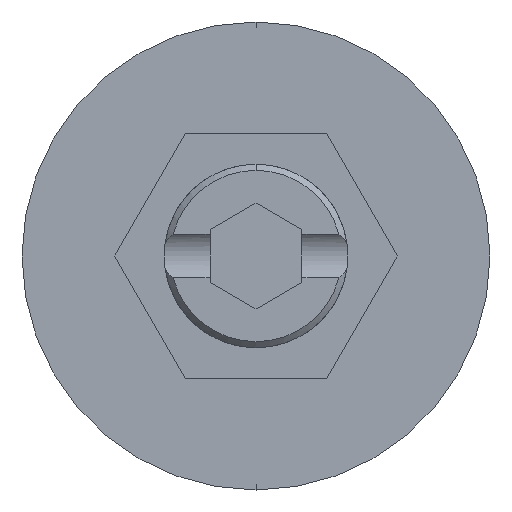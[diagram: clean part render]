
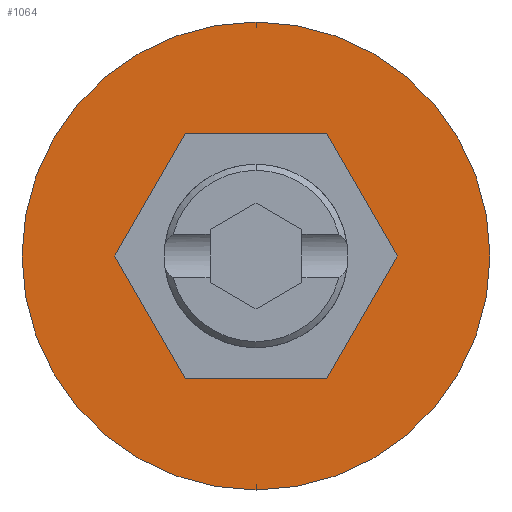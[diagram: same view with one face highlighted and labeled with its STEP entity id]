
A CAD part, front view. The second image highlights one B-rep face of the part: STEP entity #1064.
In plain terms, the highlighted planar face has unit normal (0, -1, 0).
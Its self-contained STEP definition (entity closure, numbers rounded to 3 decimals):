
#7 = CIRCLE ( 'NONE', #2160, 7.65 ) ;
#31 = DIRECTION ( 'NONE',  ( 0.5, 0., -0.866 ) ) ;
#33 = CARTESIAN_POINT ( 'NONE',  ( -2.309, 0., -4. ) ) ;
#36 = LINE ( 'NONE', #1917, #116 ) ;
#116 = VECTOR ( 'NONE', #1087, 1000. ) ;
#171 = LINE ( 'NONE', #499, #574 ) ;
#209 = AXIS2_PLACEMENT_3D ( 'NONE', #2019, #1803, #672 ) ;
#216 = DIRECTION ( 'NONE',  ( 0., 0., -1. ) ) ;
#221 = VERTEX_POINT ( 'NONE', #1046 ) ;
#251 = CARTESIAN_POINT ( 'NONE',  ( 2.309, 0., 4. ) ) ;
#286 = ORIENTED_EDGE ( 'NONE', *, *, #1737, .F. ) ;
#310 = CARTESIAN_POINT ( 'NONE',  ( -4.619, 0., 0. ) ) ;
#314 = VERTEX_POINT ( 'NONE', #1182 ) ;
#333 = LINE ( 'NONE', #310, #2156 ) ;
#367 = DIRECTION ( 'NONE',  ( 0., -1., 0. ) ) ;
#450 = VECTOR ( 'NONE', #1579, 1000. ) ;
#499 = CARTESIAN_POINT ( 'NONE',  ( -2.309, 0., 4. ) ) ;
#501 = EDGE_CURVE ( 'NONE', #1798, #1571, #36, .T. ) ;
#548 = EDGE_CURVE ( 'NONE', #1495, #1549, #653, .T. ) ;
#562 = CARTESIAN_POINT ( 'NONE',  ( 0., 0., 0. ) ) ;
#574 = VECTOR ( 'NONE', #838, 1000. ) ;
#583 = EDGE_LOOP ( 'NONE', ( #1250, #1085 ) ) ;
#600 = EDGE_CURVE ( 'NONE', #221, #1906, #333, .T. ) ;
#608 = LINE ( 'NONE', #1657, #1454 ) ;
#653 = LINE ( 'NONE', #773, #1590 ) ;
#659 = ORIENTED_EDGE ( 'NONE', *, *, #1464, .F. ) ;
#672 = DIRECTION ( 'NONE',  ( 0., 0., -1. ) ) ;
#713 = DIRECTION ( 'NONE',  ( 0., -1., 0. ) ) ;
#773 = CARTESIAN_POINT ( 'NONE',  ( 2.309, 0., -4. ) ) ;
#832 = AXIS2_PLACEMENT_3D ( 'NONE', #1541, #367, #216 ) ;
#838 = DIRECTION ( 'NONE',  ( -0.5, 0., -0.866 ) ) ;
#934 = CARTESIAN_POINT ( 'NONE',  ( 2.309, 0., -4. ) ) ;
#1031 = CARTESIAN_POINT ( 'NONE',  ( 0., 0., -7.65 ) ) ;
#1046 = CARTESIAN_POINT ( 'NONE',  ( -4.619, 0., 0. ) ) ;
#1064 = ADVANCED_FACE ( 'NONE', ( #1928, #1881 ), #1705, .T. ) ;
#1085 = ORIENTED_EDGE ( 'NONE', *, *, #1995, .T. ) ;
#1087 = DIRECTION ( 'NONE',  ( -1., 0., 0. ) ) ;
#1178 = VERTEX_POINT ( 'NONE', #1031 ) ;
#1182 = CARTESIAN_POINT ( 'NONE',  ( 0., 0., 7.65 ) ) ;
#1209 = EDGE_LOOP ( 'NONE', ( #1371, #1422, #286, #1367, #659, #1596 ) ) ;
#1250 = ORIENTED_EDGE ( 'NONE', *, *, #1944, .T. ) ;
#1342 = CARTESIAN_POINT ( 'NONE',  ( 4.619, 0., 0. ) ) ;
#1362 = LINE ( 'NONE', #33, #450 ) ;
#1367 = ORIENTED_EDGE ( 'NONE', *, *, #501, .F. ) ;
#1371 = ORIENTED_EDGE ( 'NONE', *, *, #1916, .F. ) ;
#1388 = DIRECTION ( 'NONE',  ( 0.5, 0., 0.866 ) ) ;
#1422 = ORIENTED_EDGE ( 'NONE', *, *, #600, .F. ) ;
#1454 = VECTOR ( 'NONE', #1947, 1000. ) ;
#1464 = EDGE_CURVE ( 'NONE', #1549, #1798, #608, .T. ) ;
#1495 = VERTEX_POINT ( 'NONE', #934 ) ;
#1541 = CARTESIAN_POINT ( 'NONE',  ( 0., 0., 0. ) ) ;
#1549 = VERTEX_POINT ( 'NONE', #1342 ) ;
#1571 = VERTEX_POINT ( 'NONE', #1985 ) ;
#1579 = DIRECTION ( 'NONE',  ( 1., 0., 0. ) ) ;
#1590 = VECTOR ( 'NONE', #1388, 1000. ) ;
#1596 = ORIENTED_EDGE ( 'NONE', *, *, #548, .F. ) ;
#1614 = CARTESIAN_POINT ( 'NONE',  ( -2.309, 0., -4. ) ) ;
#1657 = CARTESIAN_POINT ( 'NONE',  ( 4.619, 0., 0. ) ) ;
#1705 = PLANE ( 'NONE',  #832 ) ;
#1737 = EDGE_CURVE ( 'NONE', #1571, #221, #171, .T. ) ;
#1739 = CIRCLE ( 'NONE', #209, 7.65 ) ;
#1798 = VERTEX_POINT ( 'NONE', #251 ) ;
#1803 = DIRECTION ( 'NONE',  ( 0., -1., 0. ) ) ;
#1875 = DIRECTION ( 'NONE',  ( 0., 0., -1. ) ) ;
#1881 = FACE_OUTER_BOUND ( 'NONE', #583, .T. ) ;
#1906 = VERTEX_POINT ( 'NONE', #1614 ) ;
#1916 = EDGE_CURVE ( 'NONE', #1906, #1495, #1362, .T. ) ;
#1917 = CARTESIAN_POINT ( 'NONE',  ( 2.309, 0., 4. ) ) ;
#1928 = FACE_BOUND ( 'NONE', #1209, .T. ) ;
#1944 = EDGE_CURVE ( 'NONE', #1178, #314, #7, .T. ) ;
#1947 = DIRECTION ( 'NONE',  ( -0.5, 0., 0.866 ) ) ;
#1985 = CARTESIAN_POINT ( 'NONE',  ( -2.309, 0., 4. ) ) ;
#1995 = EDGE_CURVE ( 'NONE', #314, #1178, #1739, .T. ) ;
#2019 = CARTESIAN_POINT ( 'NONE',  ( 0., 0., 0. ) ) ;
#2156 = VECTOR ( 'NONE', #31, 1000. ) ;
#2160 = AXIS2_PLACEMENT_3D ( 'NONE', #562, #713, #1875 ) ;
